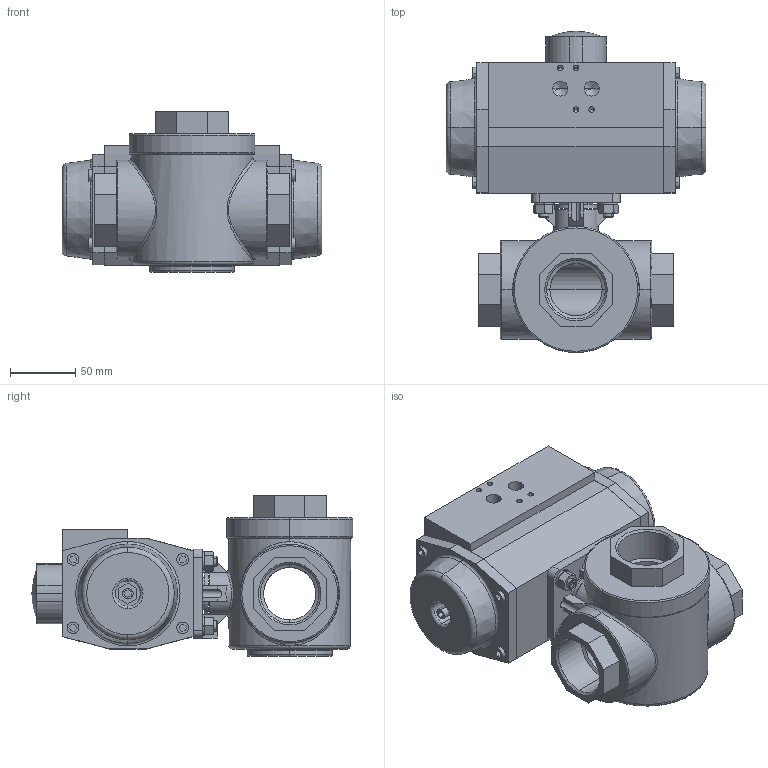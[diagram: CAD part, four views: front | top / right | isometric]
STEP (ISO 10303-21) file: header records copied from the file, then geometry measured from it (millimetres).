
FILE_DESCRIPTION (( 'STEP AP214' ), '1' );
FILE_NAME ('S57D DN40 + AP3.STEP', '2017-04-13T06:15:10', ( 'Gebruiker' ), ( 'Hewlett-Packard Company' ), 'SwSTEP 2.0', 'SolidWorks 2015', '' );
FILE_SCHEMA (( 'AUTOMOTIVE_DESIGN' ));
Length unit declared in the file: millimetre
Products named in the file (7): socket set screw cup point_iso_ISO 4029 - M8 x 25-C; hex nut style 1 gradeab_din_Hexagon Nut ISO 4032 - M8 - D - N; curved spring lock washer_din_Spring washer DIN 128 - A8; AP3 T_Default<As Machined>; Verloopster 22_14; S57D DN40-G1 1_2 FB; S57D DN40 + AP3
Assembly tree (15 placements, depth 2):
  S57D DN40 + AP3
    S57D DN40-G1 1_2 FB
    Verloopster 22_14
    AP3 T_Default<As Machined>
    curved spring lock washer_din_Spring washer DIN 128 - A8  x4
    hex nut style 1 gradeab_din_Hexagon Nut ISO 4032 - M8 - D - N  x4
    socket set screw cup point_iso_ISO 4029 - M8 x 25-C  x4
Bounding box: 199 x 246.24 x 123 mm (x, y, z)
Volume: 2258459.2 mm3; surface area: 219231.4 mm2
Topology: 22 solids, 22 shells, 709 faces, 1732 edges, 1073 vertices
Faces by surface type: plane 362, cylinder 165, cone 140, torus 34, bspline 6, sphere 2
Entity records: 20280 total; most frequent: CARTESIAN_POINT 5270, DIRECTION 2788, ORIENTED_EDGE 2704, EDGE_CURVE 1352, AXIS2_PLACEMENT_3D 944, LINE 900, VECTOR 900, VERTEX_POINT 872
